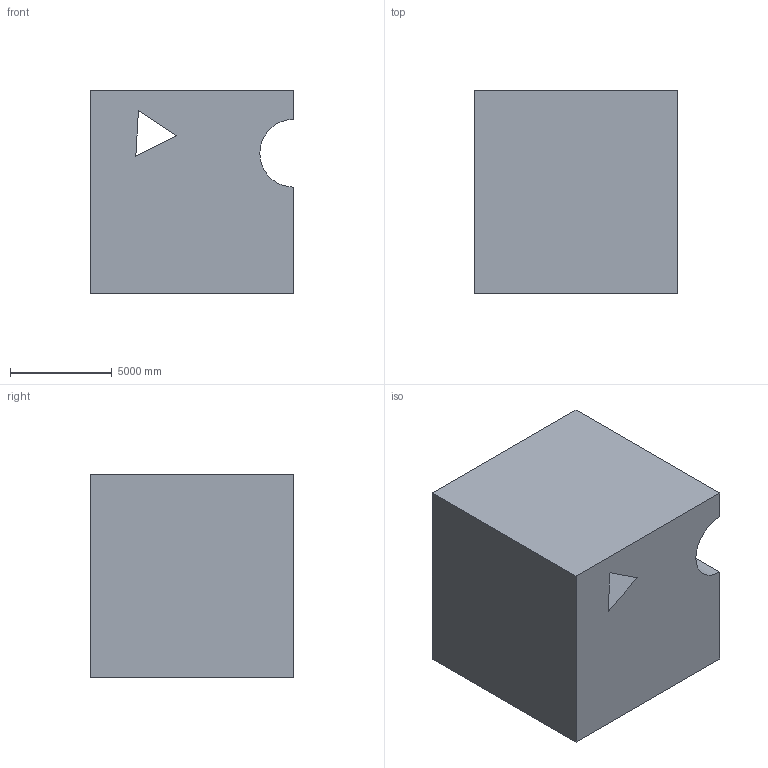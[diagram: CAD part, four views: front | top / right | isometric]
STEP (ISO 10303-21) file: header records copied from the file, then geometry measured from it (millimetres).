
FILE_DESCRIPTION (( 'STEP AP203' ), '1' );
FILE_NAME ('1133.STEP', '2022-08-18T12:53:26', ( 'user' ), ( '' ), 'SwSTEP 2.0', 'SolidWorks 2021', '' );
FILE_SCHEMA (( 'CONFIG_CONTROL_DESIGN' ));
Length unit declared in the file: centimetre
Products named in the file (1): 1133
Bounding box: 10000 x 10000 x 10000 mm (x, y, z)
Volume: 934226403829.6 mm3; surface area: 673836132 mm2
Topology: 1 solids, 1 shells, 11 faces, 27 edges, 18 vertices
Faces by surface type: plane 10, cylinder 1
Entity records: 404 total; most frequent: CARTESIAN_POINT 57, ORIENTED_EDGE 54, DIRECTION 53, EDGE_CURVE 27, VECTOR 25, LINE 25, VERTEX_POINT 18, AXIS2_PLACEMENT_3D 14
